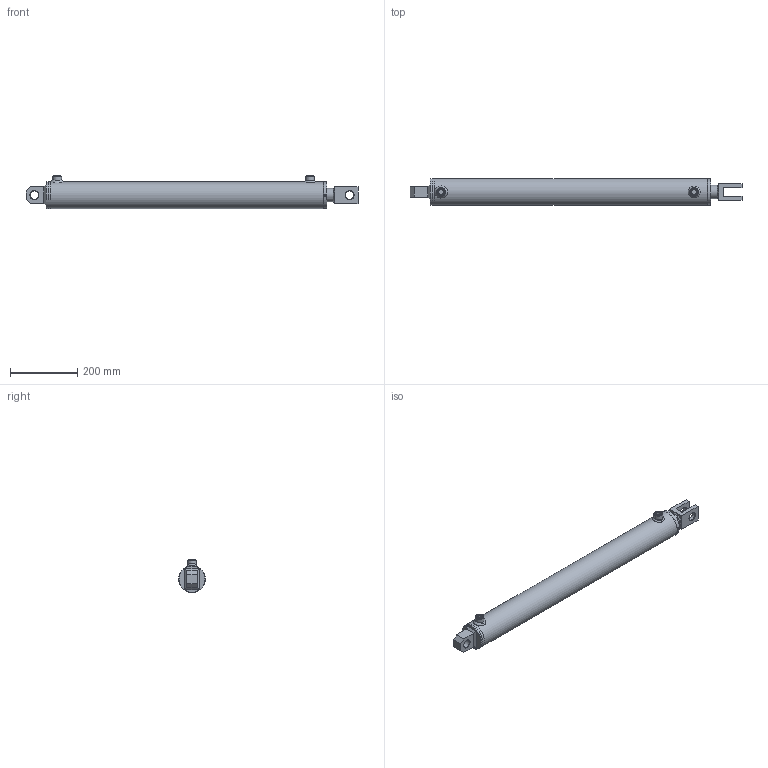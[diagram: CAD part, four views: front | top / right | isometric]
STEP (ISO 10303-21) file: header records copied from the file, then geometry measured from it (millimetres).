
FILE_DESCRIPTION( ( 'Unknown' ), '1' );
FILE_NAME( 'E:/LIBRERIA_3d/CILINDRI/HM5/HM54400700.stp', 'Unknown', ( 'Unknown' ), ( 'Unknown' ), 'PSStep 17.0.49', 'Unknown', ' ' );
FILE_SCHEMA( ( 'AUTOMOTIVE_DESIGN { 1 0 10303 214 1 1 1 1 }' ) );
Length unit declared in the file: millimetre
Products named in the file (28): CG08007040; CT00070027; STL4500700-oa7; Saldatura d'angolo 1-oa5; FTM4500800-oa6; CBSC220600; HM04400700; Saldatura con preparazione 1-oa3; Saldatura d'angolo 1-oa4; CF00070080; CBS0600000; CDB0002720; APG0600000; SBL4040700; Assem1; CFS0000025; COF2500000; Saldatura con preparazione 1-oa0; Saldatura d'angolo 1-oa1; Saldatura d'angolo 2-oa2
Assembly tree (20 placements, depth 4):
  Saldatura d'angolo 1-oa5
  Saldatura d'angolo 1-oa5
  Saldatura d'angolo 1-oa4
  Saldatura d'angolo 1-oa4
  Assem1
    CFS0000025
    COF2500000
    Saldatura con preparazione 1-oa0
    Saldatura con preparazione 1-oa0
    HM04400700
      Saldatura con preparazione 1-oa3
      Saldatura con preparazione 1-oa3
      CF00070080
      CBS0600000
      CDB0002720
      APG0600000  x2
      SBL4040700
      CG08007040
        CG08007040
      CT00070027
        CT00070027
      STL4500700-oa7
        FTM4500800-oa6
        CBSC220600
Bounding box: 990 x 80 x 99 mm (x, y, z)
Volume: 2484972.7 mm3; surface area: 640101.7 mm2
Topology: 24 solids, 24 shells, 260 faces, 549 edges, 344 vertices
Faces by surface type: plane 98, cylinder 66, cone 47, torus 37, bspline 12
Full cylindrical faces by diameter (mm): 4.25 x3, 5 x2, 6 x2, 7 x2, 14.95 x2, 16 x2, 16.6 x2, 22 x2, 25.25 x3, 26 x2, 26.4 x1, 27 x5, 33.2 x1, 35 x2, 40 x6, 41 x1, 42 x1, 43 x1, 48.6 x1, 50 x2, 64.18 x2, 65 x1, 68.34 x2, 69.9 x1, 70 x1, 70.3 x1, 70.5 x1, 70.6 x1, 71 x1, 72 x3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
Entity records: 11390 total; most frequent: CARTESIAN_POINT 4539, DIRECTION 1036, ORIENTED_EDGE 644, AXIS2_PLACEMENT_3D 464, EDGE_LOOP 454, FACE_OUTER_BOUND 357, EDGE_CURVE 322, VERTEX_POINT 283
